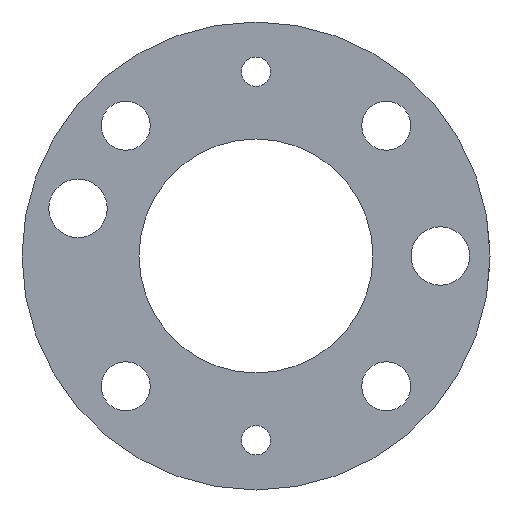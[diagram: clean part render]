
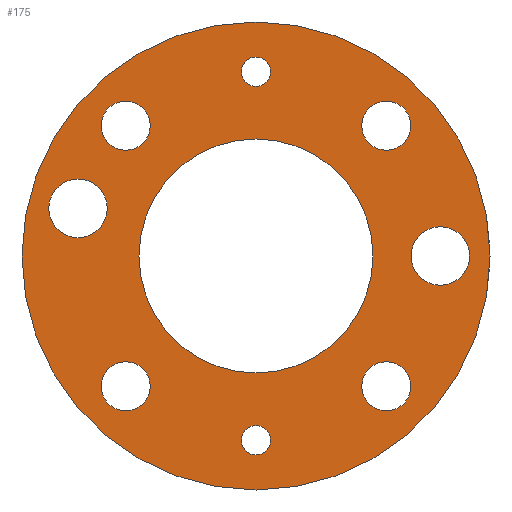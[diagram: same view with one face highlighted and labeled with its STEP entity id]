
A CAD part, front view. The second image highlights one B-rep face of the part: STEP entity #175.
In plain terms, the highlighted planar face has unit normal (0, -1, 0) as drawn and (-1, 0, 0) by its records, which use the part's own axes.
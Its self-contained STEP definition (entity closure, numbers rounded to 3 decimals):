
#17 = DIRECTION ( 'NONE',  ( -1., 0., 0. ) ) ;
#28 = DIRECTION ( 'NONE',  ( 0., 1., 0. ) ) ;
#29 = DIRECTION ( 'NONE',  ( -1., 0., 0. ) ) ;
#42 = ORIENTED_EDGE ( 'NONE', *, *, #165, .F. ) ;
#45 = ORIENTED_EDGE ( 'NONE', *, *, #613, .F. ) ;
#60 = AXIS2_PLACEMENT_3D ( 'NONE', #543, #344, #28 ) ;
#63 = DIRECTION ( 'NONE',  ( 0., 1., 0. ) ) ;
#72 = CIRCLE ( 'NONE', #582, 2.1 ) ;
#76 = DIRECTION ( 'NONE',  ( 0., 1., 0. ) ) ;
#78 = FACE_OUTER_BOUND ( 'NONE', #635, .T. ) ;
#84 = CARTESIAN_POINT ( 'NONE',  ( 540., 17., 865. ) ) ;
#85 = CARTESIAN_POINT ( 'NONE',  ( 540., -30., 825. ) ) ;
#104 = EDGE_LOOP ( 'NONE', ( #574 ) ) ;
#117 = EDGE_CURVE ( 'NONE', #391, #391, #590, .T. ) ;
#120 = DIRECTION ( 'NONE',  ( 0., 1., 0. ) ) ;
#123 = DIRECTION ( 'NONE',  ( -1., 0., 0. ) ) ;
#128 = CARTESIAN_POINT ( 'NONE',  ( 540., 11.137, 853.863 ) ) ;
#129 = DIRECTION ( 'NONE',  ( 0., 1., 0. ) ) ;
#130 = PLANE ( 'NONE',  #135 ) ;
#133 = CARTESIAN_POINT ( 'NONE',  ( 540., 13.237, 853.863 ) ) ;
#135 = AXIS2_PLACEMENT_3D ( 'NONE', #85, #444, #597 ) ;
#148 = CIRCLE ( 'NONE', #220, 2.5 ) ;
#152 = CARTESIAN_POINT ( 'NONE',  ( 540., 20., 865. ) ) ;
#155 = VERTEX_POINT ( 'NONE', #348 ) ;
#165 = EDGE_CURVE ( 'NONE', #591, #591, #364, .T. ) ;
#166 = DIRECTION ( 'NONE',  ( 0., 1., 0. ) ) ;
#168 = AXIS2_PLACEMENT_3D ( 'NONE', #510, #411, #473 ) ;
#173 = DIRECTION ( 'NONE',  ( -1., 0., 0. ) ) ;
#175 = ADVANCED_FACE ( 'NONE', ( #506, #232, #390, #592, #345, #78, #441, #646, #183, #595 ), #130, .F. ) ;
#176 = CARTESIAN_POINT ( 'NONE',  ( 540., -11.137, 876.137 ) ) ;
#179 = CIRCLE ( 'NONE', #168, 2.1 ) ;
#183 = FACE_BOUND ( 'NONE', #379, .T. ) ;
#185 = CARTESIAN_POINT ( 'NONE',  ( 540., 0., 880.75 ) ) ;
#188 = CARTESIAN_POINT ( 'NONE',  ( 540., 10., 865. ) ) ;
#190 = VERTEX_POINT ( 'NONE', #361 ) ;
#198 = EDGE_LOOP ( 'NONE', ( #42 ) ) ;
#204 = EDGE_CURVE ( 'NONE', #287, #287, #641, .T. ) ;
#205 = ORIENTED_EDGE ( 'NONE', *, *, #521, .T. ) ;
#220 = AXIS2_PLACEMENT_3D ( 'NONE', #185, #451, #336 ) ;
#231 = CIRCLE ( 'NONE', #478, 2.5 ) ;
#232 = FACE_BOUND ( 'NONE', #412, .T. ) ;
#244 = ORIENTED_EDGE ( 'NONE', *, *, #334, .F. ) ;
#254 = CIRCLE ( 'NONE', #467, 2.1 ) ;
#258 = ORIENTED_EDGE ( 'NONE', *, *, #662, .F. ) ;
#274 = AXIS2_PLACEMENT_3D ( 'NONE', #400, #359, #519 ) ;
#287 = VERTEX_POINT ( 'NONE', #188 ) ;
#298 = VERTEX_POINT ( 'NONE', #152 ) ;
#301 = CARTESIAN_POINT ( 'NONE',  ( 540., -9.037, 876.137 ) ) ;
#308 = VERTEX_POINT ( 'NONE', #509 ) ;
#330 = CIRCLE ( 'NONE', #60, 1.25 ) ;
#334 = EDGE_CURVE ( 'NONE', #308, #308, #179, .T. ) ;
#336 = DIRECTION ( 'NONE',  ( 0., 1., 0. ) ) ;
#344 = DIRECTION ( 'NONE',  ( -1., 0., 0. ) ) ;
#345 = FACE_BOUND ( 'NONE', #617, .T. ) ;
#348 = CARTESIAN_POINT ( 'NONE',  ( 540., -14.5, 865. ) ) ;
#358 = CARTESIAN_POINT ( 'NONE',  ( 540., 2.5, 880.75 ) ) ;
#359 = DIRECTION ( 'NONE',  ( 1., 0., 0. ) ) ;
#361 = CARTESIAN_POINT ( 'NONE',  ( 540., 6.576, 849.787 ) ) ;
#364 = CIRCLE ( 'NONE', #529, 1.25 ) ;
#379 = EDGE_LOOP ( 'NONE', ( #244 ) ) ;
#388 = CARTESIAN_POINT ( 'NONE',  ( 540., 15.75, 865. ) ) ;
#390 = FACE_BOUND ( 'NONE', #198, .T. ) ;
#391 = VERTEX_POINT ( 'NONE', #133 ) ;
#397 = VERTEX_POINT ( 'NONE', #358 ) ;
#400 = CARTESIAN_POINT ( 'NONE',  ( 540., 0., 865. ) ) ;
#409 = EDGE_LOOP ( 'NONE', ( #458 ) ) ;
#411 = DIRECTION ( 'NONE',  ( -1., 0., 0. ) ) ;
#412 = EDGE_LOOP ( 'NONE', ( #488 ) ) ;
#427 = AXIS2_PLACEMENT_3D ( 'NONE', #128, #654, #76 ) ;
#439 = AXIS2_PLACEMENT_3D ( 'NONE', #586, #627, #166 ) ;
#441 = FACE_BOUND ( 'NONE', #581, .T. ) ;
#444 = DIRECTION ( 'NONE',  ( 1., 0., 0. ) ) ;
#451 = DIRECTION ( 'NONE',  ( -1., 0., 0. ) ) ;
#458 = ORIENTED_EDGE ( 'NONE', *, *, #204, .T. ) ;
#464 = VERTEX_POINT ( 'NONE', #301 ) ;
#467 = AXIS2_PLACEMENT_3D ( 'NONE', #486, #17, #120 ) ;
#473 = DIRECTION ( 'NONE',  ( 0., 1., 0. ) ) ;
#478 = AXIS2_PLACEMENT_3D ( 'NONE', #625, #173, #63 ) ;
#486 = CARTESIAN_POINT ( 'NONE',  ( 540., -11.137, 853.863 ) ) ;
#488 = ORIENTED_EDGE ( 'NONE', *, *, #117, .F. ) ;
#492 = EDGE_CURVE ( 'NONE', #190, #190, #231, .T. ) ;
#501 = DIRECTION ( 'NONE',  ( 0., 1., 0. ) ) ;
#506 = FACE_BOUND ( 'NONE', #656, .T. ) ;
#509 = CARTESIAN_POINT ( 'NONE',  ( 540., 13.237, 876.137 ) ) ;
#510 = CARTESIAN_POINT ( 'NONE',  ( 540., 11.137, 876.137 ) ) ;
#519 = DIRECTION ( 'NONE',  ( 0., 1., 0. ) ) ;
#521 = EDGE_CURVE ( 'NONE', #298, #298, #549, .T. ) ;
#529 = AXIS2_PLACEMENT_3D ( 'NONE', #388, #29, #501 ) ;
#543 = CARTESIAN_POINT ( 'NONE',  ( 540., -15.75, 865. ) ) ;
#549 = CIRCLE ( 'NONE', #439, 20. ) ;
#555 = EDGE_CURVE ( 'NONE', #608, #608, #254, .T. ) ;
#574 = ORIENTED_EDGE ( 'NONE', *, *, #555, .F. ) ;
#581 = EDGE_LOOP ( 'NONE', ( #45 ) ) ;
#582 = AXIS2_PLACEMENT_3D ( 'NONE', #176, #123, #129 ) ;
#586 = CARTESIAN_POINT ( 'NONE',  ( 540., 0., 865. ) ) ;
#590 = CIRCLE ( 'NONE', #427, 2.1 ) ;
#591 = VERTEX_POINT ( 'NONE', #84 ) ;
#592 = FACE_BOUND ( 'NONE', #658, .T. ) ;
#595 = FACE_BOUND ( 'NONE', #409, .T. ) ;
#597 = DIRECTION ( 'NONE',  ( 0., 1., 0. ) ) ;
#601 = EDGE_CURVE ( 'NONE', #464, #464, #72, .T. ) ;
#608 = VERTEX_POINT ( 'NONE', #665 ) ;
#613 = EDGE_CURVE ( 'NONE', #397, #397, #148, .T. ) ;
#617 = EDGE_LOOP ( 'NONE', ( #258 ) ) ;
#625 = CARTESIAN_POINT ( 'NONE',  ( 540., 4.076, 849.787 ) ) ;
#627 = DIRECTION ( 'NONE',  ( -1., 0., 0. ) ) ;
#635 = EDGE_LOOP ( 'NONE', ( #205 ) ) ;
#638 = ORIENTED_EDGE ( 'NONE', *, *, #492, .F. ) ;
#641 = CIRCLE ( 'NONE', #274, 10. ) ;
#642 = ORIENTED_EDGE ( 'NONE', *, *, #601, .F. ) ;
#646 = FACE_BOUND ( 'NONE', #104, .T. ) ;
#654 = DIRECTION ( 'NONE',  ( -1., 0., 0. ) ) ;
#656 = EDGE_LOOP ( 'NONE', ( #642 ) ) ;
#658 = EDGE_LOOP ( 'NONE', ( #638 ) ) ;
#662 = EDGE_CURVE ( 'NONE', #155, #155, #330, .T. ) ;
#665 = CARTESIAN_POINT ( 'NONE',  ( 540., -9.037, 853.863 ) ) ;
